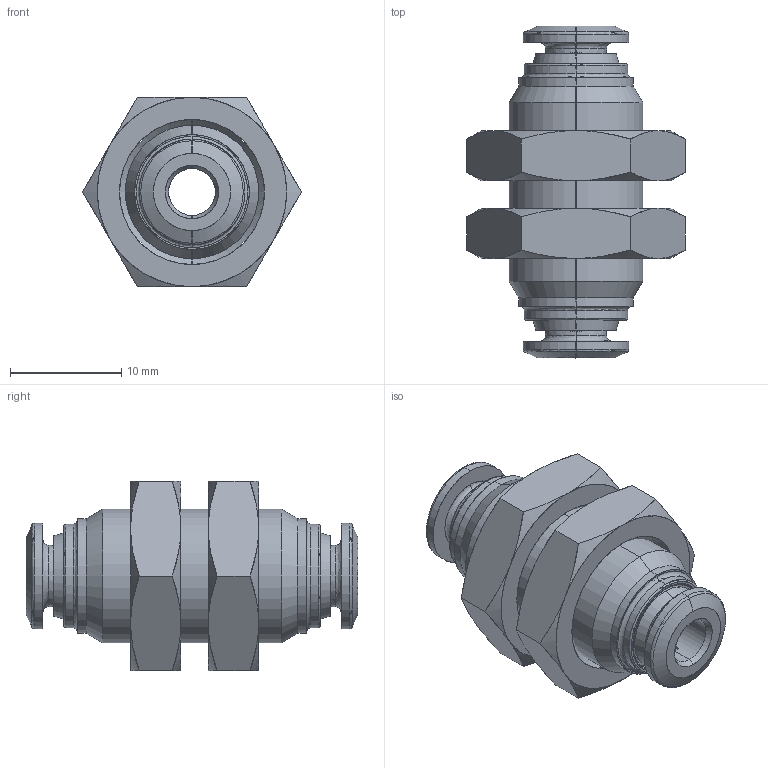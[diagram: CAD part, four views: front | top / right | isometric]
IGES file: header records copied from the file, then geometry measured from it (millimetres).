
Start section: SolidWorks IGES file using analytic representation for surfaces
Global section: file name: C:\Users\cad06\Desktop\Nuova cartella\40050V0001A.IGS; native system: SolidWorks 2016; preprocessor: SolidWorks 2016; author: cad06; date: 160516.154957; units: millimetre
Bounding box: 19.63 x 29.8 x 17 mm (x, y, z)
Surface area: 2774.2 mm2 (no closed solid volume)
Topology: 0 solids, 0 shells, 138 faces, 1880 edges, 1880 vertices
Faces by surface type: revolution 82, bspline 56
